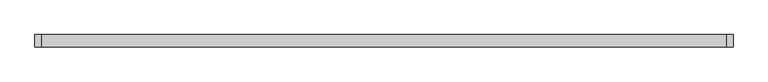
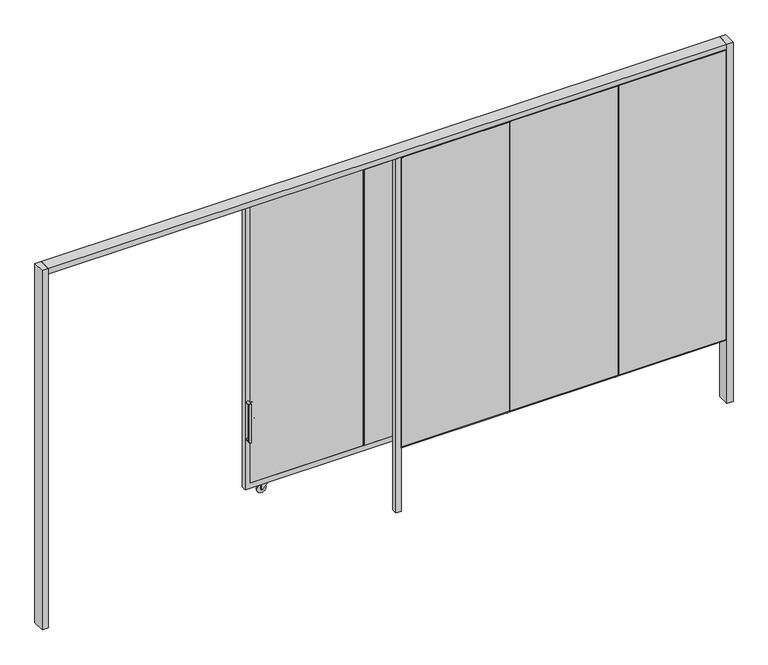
"""IFC4 building model written with IfcOpenShell, lengths in millimetres: furniture geometry, H102 Portón corredizo vehicular : H102 Portón corredizo vehicular."""

from ifc_helpers import new_model, si_unit, point, frame, frame_2d, origin, place, context, project, spatial, polyline, circle_curve, ellipse_curve, trimmed, segment, composite_curve, outline, extrude, source, transform, mapped, element, save
from ifc_brep_helpers import plane_surface, cylinder_surface, revolved_surface, advanced_brep


def furniture_cf3a5ee0(model_context):
    return source(origin(), model_context, "Body", "SolidModel", [
        extrude(outline(polyline([(437.5, -23.0), (437.5, -47.0), (367.5, -47.0), (367.5, -23.0), (437.5, -23.0)])), frame((0.0, 0.0, 102.0), z_axis=(0.0, 0.0, 1.0), x_axis=(1.0, 0.0, 0.0)), (0.0, 0.0, 1.0), 3.0),
        extrude(outline(composite_curve([segment(polyline([(105.0, 367.5), (45.0, 367.5)]), True, "CONTINUOUS"), segment(trimmed(circle_curve(frame_2d((45.0, 377.5)), 10.0), [point((45.0, 367.5))], [point((38.2006885, 384.8327596))], False, "CARTESIAN"), True, "CONTINUOUS"), segment(polyline([(38.2006885, 384.8327596), (95.0, 437.5), (105.0, 437.5), (105.0, 367.5)]), True, "CONTINUOUS")], self_intersect=False)), frame((0.0, -23.0, 0.0), z_axis=(0.0, 1.0, 0.0), x_axis=(0.0, 0.0, 1.0)), (0.0, 0.0, 1.0), 3.0),
        extrude(outline(composite_curve([segment(polyline([(105.0, 367.5), (45.0, 367.5)]), True, "CONTINUOUS"), segment(trimmed(circle_curve(frame_2d((45.0, 377.5)), 10.0), [point((45.0, 367.5))], [point((38.2006885, 384.8327596))], False, "CARTESIAN"), True, "CONTINUOUS"), segment(polyline([(38.2006885, 384.8327596), (95.0, 437.5), (105.0, 437.5), (105.0, 367.5)]), True, "CONTINUOUS")], self_intersect=False)), frame((0.0, -50.0, 0.0), z_axis=(0.0, 1.0, 0.0), x_axis=(0.0, 0.0, 1.0)), (0.0, 0.0, 1.0), 3.0),
        extrude(outline(composite_curve([segment(trimmed(circle_curve(frame_2d((45.0, 377.5)), 45.0), [point((45.0, 332.5))], [point((45.0, 422.5))], False, "CARTESIAN"), True, "CONTINUOUS"), segment(trimmed(circle_curve(frame_2d((45.0, 377.5)), 45.0), [point((45.0, 422.5))], [point((45.0, 332.5))], False, "CARTESIAN"), True, "CONTINUOUS")], self_intersect=False)), frame((0.0, -40.0, 0.0), z_axis=(0.0, 1.0, 0.0), x_axis=(0.0, 0.0, 1.0)), (0.0, 0.0, 1.0), 10.0),
        advanced_brep(
        [(-1295.0, -14.0, 949.0), (-1295.0, -26.0, 949.0), (-1253.0, -26.0, 949.0), (-1253.0, -14.0, 949.0), (-1239.0, -26.0, 935.0), (-1239.0, -26.0, 775.0), (-1239.0, -14.0, 775.0), (-1239.0, -14.0, 935.0), (-1295.0, -14.0, 761.0), (-1295.0, -26.0, 761.0), (-1253.0, -26.0, 761.0), (-1253.0, -14.0, 761.0)],
        [
            (0, 1, circle_curve(frame((-1295.0, -20.0, 949.0), z_axis=(-1.0, 0.0, 0.0), x_axis=(0.0, -1.0, 0.0)), 6.0)),
            (1, 0, circle_curve(frame((-1295.0, -20.0, 949.0), z_axis=(-1.0, 0.0, 0.0), x_axis=(0.0, -1.0, 0.0)), 6.0)),
            (1, 2),
            (2, 3, circle_curve(frame((-1253.0, -20.0, 949.0), z_axis=(-1.0, 0.0, 0.0), x_axis=(0.0, -1.0, 0.0)), 6.0)),
            (3, 0),
            (3, 2, circle_curve(frame((-1253.0, -20.0, 949.0), z_axis=(-1.0, 0.0, 0.0), x_axis=(0.0, -1.0, 0.0)), 6.0)),
            (4, 5),
            (5, 6, circle_curve(frame((-1239.0, -20.0, 775.0), z_axis=(0.0, 0.0, 1.0), x_axis=(0.0, -1.0, 0.0)), 6.0)),
            (6, 7),
            (7, 4, circle_curve(frame((-1239.0, -20.0, 935.0), z_axis=(0.0, 0.0, -1.0), x_axis=(0.0, -1.0, 0.0)), 6.0)),
            (6, 5, circle_curve(frame((-1239.0, -20.0, 775.0), z_axis=(0.0, 0.0, 1.0), x_axis=(0.0, -1.0, 0.0)), 6.0)),
            (4, 7, circle_curve(frame((-1239.0, -20.0, 935.0), z_axis=(0.0, 0.0, -1.0), x_axis=(0.0, -1.0, 0.0)), 6.0)),
            (8, 9, circle_curve(frame((-1295.0, -20.0, 761.0), z_axis=(-1.0, 0.0, 0.0), x_axis=(0.0, -1.0, 0.0)), 6.0)),
            (9, 8, circle_curve(frame((-1295.0, -20.0, 761.0), z_axis=(-1.0, 0.0, 0.0), x_axis=(0.0, -1.0, 0.0)), 6.0)),
            (10, 9),
            (8, 11),
            (11, 10, circle_curve(frame((-1253.0, -20.0, 761.0), z_axis=(-1.0, 0.0, 0.0), x_axis=(0.0, -1.0, 0.0)), 6.0)),
            (10, 11, circle_curve(frame((-1253.0, -20.0, 761.0), z_axis=(-1.0, 0.0, 0.0), x_axis=(0.0, -1.0, 0.0)), 6.0)),
            (7, 3, circle_curve(frame((-1253.0, -14.0, 935.0), z_axis=(0.0, -1.0, 0.0), x_axis=(0.0, 0.0, 1.0)), 14.0)),
            (2, 4, circle_curve(frame((-1253.0, -26.0, 935.0), z_axis=(0.0, 1.0, 0.0), x_axis=(0.0, 0.0, 1.0)), 14.0)),
            (11, 6, circle_curve(frame((-1253.0, -14.0, 775.0), z_axis=(0.0, -1.0, 0.0), x_axis=(1.0, 0.0, 0.0)), 14.0)),
            (5, 10, circle_curve(frame((-1253.0, -26.0, 775.0), z_axis=(0.0, 1.0, 0.0), x_axis=(1.0, 0.0, 0.0)), 14.0)),
        ],
        [
            plane_surface(frame((-1295.0, -20.0, 955.0), z_axis=(-1.0, 0.0, 0.0), x_axis=(0.0, -1.0, 0.0))),
            cylinder_surface(frame((-1295.0, -20.0, 949.0), z_axis=(-1.0, 0.0, 0.0), x_axis=(0.0, -1.0, 0.0)), 6.0),
            cylinder_surface(frame((-1239.0, -20.0, 935.0), z_axis=(0.0, 0.0, 1.0), x_axis=(0.0, -1.0, 0.0)), 6.0),
            plane_surface(frame((-1295.0, -20.0, 755.0), z_axis=(-1.0, 0.0, 0.0), x_axis=(0.0, -1.0, 0.0))),
            cylinder_surface(frame((-1253.0, -20.0, 761.0), z_axis=(1.0, 0.0, 0.0), x_axis=(0.0, -1.0, 0.0)), 6.0),
            revolved_surface(trimmed(ellipse_curve(frame((-1253.0, -20.0, 949.0), z_axis=(1.0, 0.0, 0.0), x_axis=(0.0, -1.0, 0.0)), 6.0, 6.0), [point((-1253.0, -14.0, 949.0))], [point((-1253.0, -26.0, 949.0))], True, "CARTESIAN"), (-1253.0, -20.0, 935.0), (0.0, -1.0, 0.0)),
            revolved_surface(trimmed(ellipse_curve(frame((-1253.0, -20.0, 949.0), z_axis=(1.0, 0.0, 0.0), x_axis=(0.0, -1.0, 0.0)), 6.0, 6.0), [point((-1253.0, -26.0, 949.0))], [point((-1253.0, -14.0, 949.0))], True, "CARTESIAN"), (-1253.0, -20.0, 935.0), (0.0, -1.0, 0.0)),
            revolved_surface(trimmed(ellipse_curve(frame((-1239.0, -20.0, 775.0), z_axis=(0.0, 0.0, -1.0), x_axis=(0.0, -1.0, 0.0)), 6.0, 6.0), [point((-1239.0, -14.0, 775.0))], [point((-1239.0, -26.0, 775.0))], True, "CARTESIAN"), (-1253.0, -20.0, 775.0), (0.0, -1.0, 0.0)),
            revolved_surface(trimmed(ellipse_curve(frame((-1239.0, -20.0, 775.0), z_axis=(0.0, 0.0, -1.0), x_axis=(0.0, -1.0, 0.0)), 6.0, 6.0), [point((-1239.0, -26.0, 775.0))], [point((-1239.0, -14.0, 775.0))], True, "CARTESIAN"), (-1253.0, -20.0, 775.0), (0.0, -1.0, 0.0)),
        ],
        [
            (0, [[1, 2]]),
            (1, [[3, 4, 5, -2]]),
            (1, [[-5, 6, -3, -1]]),
            (2, [[7, 8, 9, 10]]),
            (2, [[-9, 11, -7, 12]]),
            (3, [[13, 14]]),
            (4, [[15, -13, 16, 17]]),
            (4, [[-16, -14, -15, 18]]),
            (5, [[-10, 19, -4, 20]]),
            (6, [[-12, -20, -6, -19]]),
            (7, [[-17, 21, -8, 22]]),
            (8, [[-18, -22, -11, -21]]),
        ],
    ),
        advanced_brep(
        [(-1332.7, -60.0, 987.0), (-1307.3, -60.0, 987.0), (-1332.7, -97.3, 987.0), (-1307.3, -97.3, 987.0), (-1332.7, -97.3, 612.4), (-1307.3, -97.3, 612.4), (-1332.7, -60.0, 612.4), (-1307.3, -60.0, 612.4)],
        [
            (0, 1, circle_curve(frame((-1320.0, -60.0, 987.0), z_axis=(0.0, 1.0, 0.0), x_axis=(1.0, 0.0, 0.0)), 12.7)),
            (1, 0, circle_curve(frame((-1320.0, -60.0, 987.0), z_axis=(0.0, 1.0, 0.0), x_axis=(1.0, 0.0, 0.0)), 12.7)),
            (0, 2),
            (2, 3, ellipse_curve(frame((-1320.0, -97.3, 987.0), z_axis=(0.0, 0.7071067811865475, 0.7071067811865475), x_axis=(0.0, 0.7071067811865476, -0.7071067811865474)), 17.9605122, 12.7)),
            (3, 1),
            (3, 2, ellipse_curve(frame((-1320.0, -97.3, 987.0), z_axis=(0.0, 0.7071067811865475, 0.7071067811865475), x_axis=(0.0, 0.7071067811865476, -0.7071067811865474)), 17.9605122, 12.7)),
            (2, 4),
            (4, 5, ellipse_curve(frame((-1320.0, -97.3, 612.4), z_axis=(0.0, -0.7071067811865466, 0.7071067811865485), x_axis=(0.0, 0.7071067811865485, 0.7071067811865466)), 17.9605122, 12.7)),
            (5, 3),
            (5, 4, ellipse_curve(frame((-1320.0, -97.3, 612.4), z_axis=(0.0, -0.7071067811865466, 0.7071067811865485), x_axis=(0.0, 0.7071067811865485, 0.7071067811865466)), 17.9605122, 12.7)),
            (6, 7, circle_curve(frame((-1320.0, -60.0, 612.4), z_axis=(0.0, 1.0, 0.0), x_axis=(1.0, 0.0, 0.0)), 12.7)),
            (7, 6, circle_curve(frame((-1320.0, -60.0, 612.4), z_axis=(0.0, 1.0, 0.0), x_axis=(1.0, 0.0, 0.0)), 12.7)),
            (4, 6),
            (7, 5),
        ],
        [
            plane_surface(frame((-1320.0, -60.0, 999.7), z_axis=(0.0, 1.0, 0.0), x_axis=(1.0, 0.0, 0.0))),
            cylinder_surface(frame((-1320.0, -60.0, 987.0), z_axis=(0.0, 1.0, 0.0), x_axis=(1.0, 0.0, 0.0)), 12.7),
            cylinder_surface(frame((-1320.0, -97.3, 999.7), z_axis=(0.0, 0.0, 1.0), x_axis=(1.0, 0.0, 0.0)), 12.7),
            plane_surface(frame((-1320.0, -60.0, 599.7), z_axis=(0.0, 1.0, 0.0), x_axis=(1.0, 0.0, 0.0))),
            cylinder_surface(frame((-1320.0, -110.0, 612.4), z_axis=(0.0, -1.0, 0.0), x_axis=(1.0, 0.0, 0.0)), 12.7),
        ],
        [
            (0, [[1, 2]]),
            (1, [[-1, 3, 4, 5]]),
            (1, [[-2, -5, 6, -3]]),
            (2, [[-4, 7, 8, 9]]),
            (2, [[-6, -9, 10, -7]]),
            (3, [[11, 12]]),
            (4, [[-8, 13, -12, 14]]),
            (4, [[-10, -14, -11, -13]]),
        ],
    ),
        extrude(outline(polyline([(1990.0, -23.0), (1990.0, -47.0), (1920.0, -47.0), (1920.0, -23.0), (1990.0, -23.0)])), frame((0.0, 0.0, 102.0), z_axis=(0.0, 0.0, 1.0), x_axis=(1.0, 0.0, 0.0)), (0.0, 0.0, 1.0), 3.0),
        extrude(outline(composite_curve([segment(polyline([(105.0, 1920.0), (45.0, 1920.0)]), True, "CONTINUOUS"), segment(trimmed(circle_curve(frame_2d((45.0, 1930.0)), 10.0), [point((45.0, 1920.0))], [point((38.2006885, 1937.3327596))], False, "CARTESIAN"), True, "CONTINUOUS"), segment(polyline([(38.2006885, 1937.3327596), (95.0, 1990.0), (105.0, 1990.0), (105.0, 1920.0)]), True, "CONTINUOUS")], self_intersect=False)), frame((0.0, -23.0, 0.0), z_axis=(0.0, 1.0, 0.0), x_axis=(0.0, 0.0, 1.0)), (0.0, 0.0, 1.0), 3.0),
        extrude(outline(composite_curve([segment(polyline([(105.0, 1920.0), (45.0, 1920.0)]), True, "CONTINUOUS"), segment(trimmed(circle_curve(frame_2d((45.0, 1930.0)), 10.0), [point((45.0, 1920.0))], [point((38.2006885, 1937.3327596))], False, "CARTESIAN"), True, "CONTINUOUS"), segment(polyline([(38.2006885, 1937.3327596), (95.0, 1990.0), (105.0, 1990.0), (105.0, 1920.0)]), True, "CONTINUOUS")], self_intersect=False)), frame((0.0, -50.0, 0.0), z_axis=(0.0, 1.0, 0.0), x_axis=(0.0, 0.0, 1.0)), (0.0, 0.0, 1.0), 3.0),
        extrude(outline(composite_curve([segment(trimmed(circle_curve(frame_2d((45.0, 1930.0)), 45.0), [point((45.0, 1885.0))], [point((45.0, 1975.0))], False, "CARTESIAN"), True, "CONTINUOUS"), segment(trimmed(circle_curve(frame_2d((45.0, 1930.0)), 45.0), [point((45.0, 1975.0))], [point((45.0, 1885.0))], False, "CARTESIAN"), True, "CONTINUOUS")], self_intersect=False)), frame((0.0, -40.0, 0.0), z_axis=(0.0, 1.0, 0.0), x_axis=(0.0, 0.0, 1.0)), (0.0, 0.0, 1.0), 10.0),
        extrude(outline(polyline([(-1115.0, -23.0), (-1115.0, -47.0), (-1185.0, -47.0), (-1185.0, -23.0), (-1115.0, -23.0)])), frame((0.0, 0.0, 102.0), z_axis=(0.0, 0.0, 1.0), x_axis=(1.0, 0.0, 0.0)), (0.0, 0.0, 1.0), 3.0),
        extrude(outline(composite_curve([segment(polyline([(105.0, -1185.0), (45.0, -1185.0)]), True, "CONTINUOUS"), segment(trimmed(circle_curve(frame_2d((45.0, -1175.0)), 10.0), [point((45.0, -1185.0))], [point((38.2006885, -1167.6672404))], False, "CARTESIAN"), True, "CONTINUOUS"), segment(polyline([(38.2006885, -1167.6672404), (95.0, -1115.0), (105.0, -1115.0), (105.0, -1185.0)]), True, "CONTINUOUS")], self_intersect=False)), frame((0.0, -23.0, 0.0), z_axis=(0.0, 1.0, 0.0), x_axis=(0.0, 0.0, 1.0)), (0.0, 0.0, 1.0), 3.0),
        extrude(outline(composite_curve([segment(polyline([(105.0, -1185.0), (45.0, -1185.0)]), True, "CONTINUOUS"), segment(trimmed(circle_curve(frame_2d((45.0, -1175.0)), 10.0), [point((45.0, -1185.0))], [point((38.2006885, -1167.6672404))], False, "CARTESIAN"), True, "CONTINUOUS"), segment(polyline([(38.2006885, -1167.6672404), (95.0, -1115.0), (105.0, -1115.0), (105.0, -1185.0)]), True, "CONTINUOUS")], self_intersect=False)), frame((0.0, -50.0, 0.0), z_axis=(0.0, 1.0, 0.0), x_axis=(0.0, 0.0, 1.0)), (0.0, 0.0, 1.0), 3.0),
        extrude(outline(composite_curve([segment(trimmed(circle_curve(frame_2d((45.0, -1175.0)), 45.0), [point((45.0, -1220.0))], [point((45.0, -1130.0))], False, "CARTESIAN"), True, "CONTINUOUS"), segment(trimmed(circle_curve(frame_2d((45.0, -1175.0)), 45.0), [point((45.0, -1130.0))], [point((45.0, -1220.0))], False, "CARTESIAN"), True, "CONTINUOUS")], self_intersect=False)), frame((0.0, -40.0, 0.0), z_axis=(0.0, 1.0, 0.0), x_axis=(0.0, 0.0, 1.0)), (0.0, 0.0, 1.0), 10.0),
        extrude(outline(polyline([(-3285.0, -120.0), (-3345.0, -120.0), (-3345.0, 0.0), (-3285.0, 0.0), (-3285.0, -120.0)])), frame((0.0, 0.0, -600.0), z_axis=(0.0, 0.0, 1.0), x_axis=(1.0, 0.0, 0.0)), (0.0, 0.0, 1.0), 3680.0),
        extrude(outline(polyline([(3345.0, -120.0), (3285.0, -120.0), (3285.0, 0.0), (3345.0, 0.0), (3345.0, -120.0)])), frame((0.0, 0.0, -600.0), z_axis=(0.0, 0.0, 1.0), x_axis=(1.0, 0.0, 0.0)), (0.0, 0.0, 1.0), 3680.0),
        extrude(outline(polyline([(130.0, -70.0), (130.0, -120.0), (80.0, -120.0), (80.0, -70.0), (130.0, -70.0)])), frame((0.0, 0.0, -600.0), z_axis=(0.0, 0.0, 1.0), x_axis=(1.0, 0.0, 0.0)), (0.0, 0.0, 1.0), 3625.0),
        extrude(outline(polyline([(3025.0, 2233.3333333), (3025.0, 1181.6666667), (50.0, 1181.6666667), (50.0, 2233.3333333), (3025.0, 2233.3333333)]), holes=[polyline([(3018.0, 2229.8333333), (57.0, 2229.8333333), (57.0, 1185.1666667), (3018.0, 1185.1666667), (3018.0, 2229.8333333)])]), frame((0.0, -120.0, 0.0), z_axis=(0.0, 1.0, 0.0), x_axis=(0.0, 0.0, 1.0)), (0.0, 0.0, 1.0), 32.0),
        extrude(outline(polyline([(2229.8333333, -120.0), (1185.1666667, -120.0), (1185.1666667, -117.0), (2229.8333333, -117.0), (2229.8333333, -120.0)])), frame((0.0, 0.0, 57.0), z_axis=(0.0, 0.0, 1.0), x_axis=(1.0, 0.0, 0.0)), (0.0, 0.0, 1.0), 2961.0),
        extrude(outline(polyline([(948.1666667, -60.0), (-193.1666667, -60.0), (-193.1666667, -57.0), (948.1666667, -57.0), (948.1666667, -60.0)])), frame((0.0, 0.0, 150.0), z_axis=(0.0, 0.0, 1.0), x_axis=(1.0, 0.0, 0.0)), (0.0, 0.0, 1.0), 2825.0),
        extrude(outline(polyline([(-193.1666667, -60.0), (-196.6666667, -60.0), (-196.6666667, -10.0), (-193.1666667, -10.0), (-193.1666667, -60.0)])), frame((0.0, 0.0, 150.0), z_axis=(0.0, 0.0, 1.0), x_axis=(1.0, 0.0, 0.0)), (0.0, 0.0, 1.0), 2825.0),
        extrude(outline(polyline([(-196.6666667, -60.0), (-200.1666667, -60.0), (-200.1666667, -10.0), (-196.6666667, -10.0), (-196.6666667, -60.0)])), frame((0.0, 0.0, 150.0), z_axis=(0.0, 0.0, 1.0), x_axis=(1.0, 0.0, 0.0)), (0.0, 0.0, 1.0), 2825.0),
        extrude(outline(polyline([(2050.0, -60.0), (955.1666667, -60.0), (955.1666667, -57.0), (2050.0, -57.0), (2050.0, -60.0)])), frame((0.0, 0.0, 150.0), z_axis=(0.0, 0.0, 1.0), x_axis=(1.0, 0.0, 0.0)), (0.0, 0.0, 1.0), 2825.0),
        extrude(outline(polyline([(-200.1666667, -60.0), (-1295.0, -60.0), (-1295.0, -57.0), (-200.1666667, -57.0), (-200.1666667, -60.0)])), frame((0.0, 0.0, 150.0), z_axis=(0.0, 0.0, 1.0), x_axis=(1.0, 0.0, 0.0)), (0.0, 0.0, 1.0), 2825.0),
        extrude(outline(polyline([(955.1666667, -60.0), (951.6666667, -60.0), (951.6666667, -10.0), (955.1666667, -10.0), (955.1666667, -60.0)])), frame((0.0, 0.0, 150.0), z_axis=(0.0, 0.0, 1.0), x_axis=(1.0, 0.0, 0.0)), (0.0, 0.0, 1.0), 2825.0),
        extrude(outline(polyline([(951.6666667, -60.0), (948.1666667, -60.0), (948.1666667, -10.0), (951.6666667, -10.0), (951.6666667, -60.0)])), frame((0.0, 0.0, 150.0), z_axis=(0.0, 0.0, 1.0), x_axis=(1.0, 0.0, 0.0)), (0.0, 0.0, 1.0), 2825.0),
        extrude(outline(polyline([(3025.0, 2100.0), (3025.0, -1345.0), (100.0, -1345.0), (100.0, 2100.0), (3025.0, 2100.0)]), holes=[polyline([(2975.0, 2050.0), (150.0, 2050.0), (150.0, -1295.0), (2975.0, -1295.0), (2975.0, 2050.0)])]), frame((0.0, -60.0, 0.0), z_axis=(0.0, 1.0, 0.0), x_axis=(0.0, 0.0, 1.0)), (0.0, 0.0, 1.0), 50.0),
        extrude(outline(polyline([(3278.0, -120.0), (2236.8333333, -120.0), (2236.8333333, -117.0), (3278.0, -117.0), (3278.0, -120.0)])), frame((0.0, 0.0, 57.0), z_axis=(0.0, 0.0, 1.0), x_axis=(1.0, 0.0, 0.0)), (0.0, 0.0, 1.0), 2961.0),
        extrude(outline(polyline([(3025.0, 3285.0), (3025.0, 2233.3333333), (50.0, 2233.3333333), (50.0, 3285.0), (3025.0, 3285.0)]), holes=[polyline([(3018.0, 3278.0), (57.0, 3278.0), (57.0, 2236.8333333), (3018.0, 2236.8333333), (3018.0, 3278.0)])]), frame((0.0, -120.0, 0.0), z_axis=(0.0, 1.0, 0.0), x_axis=(0.0, 0.0, 1.0)), (0.0, 0.0, 1.0), 32.0),
        extrude(outline(polyline([(1178.1666667, -120.0), (137.0, -120.0), (137.0, -117.0), (1178.1666667, -117.0), (1178.1666667, -120.0)])), frame((0.0, 0.0, 57.0), z_axis=(0.0, 0.0, 1.0), x_axis=(1.0, 0.0, 0.0)), (0.0, 0.0, 1.0), 2961.0),
        extrude(outline(polyline([(3025.0, 1181.6666667), (3025.0, 130.0), (50.0, 130.0), (50.0, 1181.6666667), (3025.0, 1181.6666667)]), holes=[polyline([(3018.0, 1178.1666667), (57.0, 1178.1666667), (57.0, 137.0), (3018.0, 137.0), (3018.0, 1178.1666667)])]), frame((0.0, -120.0, 0.0), z_axis=(0.0, 1.0, 0.0), x_axis=(0.0, 0.0, 1.0)), (0.0, 0.0, 1.0), 32.0),
        extrude(outline(polyline([(-42.0, 82.0), (-42.0, 0.0), (-67.0, 0.0), (-67.0, 57.0), (-117.0, 57.0), (-117.0, 82.0), (-42.0, 82.0)])), frame((1185.1666667, 0.0, 0.0), z_axis=(1.0, 0.0, 0.0), x_axis=(0.0, 1.0, 0.0)), (0.0, 0.0, 1.0), 7.0),
        extrude(outline(polyline([(-42.0, 82.0), (-42.0, 0.0), (-67.0, 0.0), (-67.0, 57.0), (-117.0, 57.0), (-117.0, 82.0), (-42.0, 82.0)])), frame((2236.8333333, 0.0, 0.0), z_axis=(1.0, 0.0, 0.0), x_axis=(0.0, 1.0, 0.0)), (0.0, 0.0, 1.0), 7.0),
        extrude(outline(polyline([(-120.0, 3080.0), (0.0, 3080.0), (0.0, 3025.0), (-8.0, 3025.0), (-8.0, 3072.0), (-112.0, 3072.0), (-112.0, 3025.0), (-120.0, 3025.0), (-120.0, 3080.0)])), frame((-3285.0, 0.0, 0.0), z_axis=(1.0, 0.0, 0.0), x_axis=(0.0, 1.0, 0.0)), (0.0, 0.0, 1.0), 6570.0),
    ])


if __name__ == "__main__":
    model = new_model("IFC4")
    model_context = context("Model", 3, world=origin())
    ifc_project = project(units=[si_unit("LENGTHUNIT", "METRE", prefix="MILLI")], contexts=[model_context])
    site = spatial("IfcSite", under=ifc_project)
    building = spatial("IfcBuilding", under=site)
    placement = place(None, origin())
    furniture_shape = furniture_cf3a5ee0(model_context)
    element("IfcFurniture", 1, ObjectType="H102 Portón corredizo vehicular : H102 Portón corredizo vehicular", at=placement, inside=building, context=model_context, shape_type="MappedRepresentation", body=[
        mapped(furniture_shape, transform((0.0, 0.0, 0.0), x_axis=(1.0, 0.0, 0.0), y_axis=(0.0, 1.0, 0.0), z_axis=(0.0, 0.0, 1.0))),
    ])
    save(model, "model.ifc")
